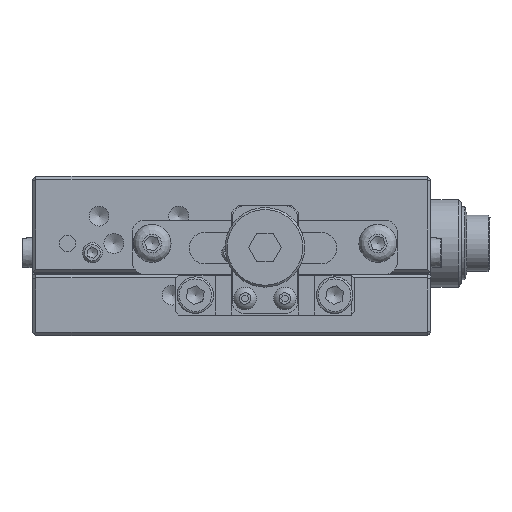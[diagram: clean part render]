
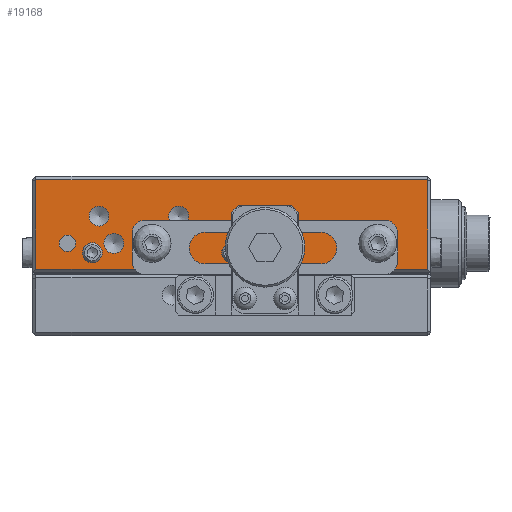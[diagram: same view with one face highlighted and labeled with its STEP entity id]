
A CAD part, left-side view. The second image highlights one B-rep face of the part: STEP entity #19168.
In plain terms, the highlighted planar face has unit normal (-1, 0, 0).
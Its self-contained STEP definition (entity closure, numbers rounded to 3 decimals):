
#18597=CARTESIAN_POINT('',(-30.,29.5,16.));
#18598=VERTEX_POINT('',#18597);
#18622=CARTESIAN_POINT('',(-30.,29.5,2.5));
#18623=VERTEX_POINT('',#18622);
#18630=CARTESIAN_POINT('',(-30.,29.5,2.5));
#18631=DIRECTION('',(0.,0.0,1.0));
#18632=VECTOR('',#18631,13.5);
#18633=LINE('',#18630,#18632);
#18634=EDGE_CURVE('',#18623,#18598,#18633,.T.);
#19028=CARTESIAN_POINT('',(-30.,-29.5,16.));
#19029=VERTEX_POINT('',#19028);
#19030=CARTESIAN_POINT('',(-30.,29.5,16.));
#19031=DIRECTION('',(0.0,-1.0,0.0));
#19032=VECTOR('',#19031,59.0);
#19033=LINE('',#19030,#19032);
#19034=EDGE_CURVE('',#18598,#19029,#19033,.T.);
#19046=CARTESIAN_POINT('',(-30.,0.0,16.));
#19047=DIRECTION('',(-1.0,0.0,0.));
#19048=DIRECTION('',(0.,0.0,1.0));
#19049=AXIS2_PLACEMENT_3D('',#19046,#19047,#19048);
#19050=PLANE('',#19049);
#19051=ORIENTED_EDGE('',*,*,#18634,.F.);
#19052=CARTESIAN_POINT('',(-30.,-29.5,2.5));
#19053=VERTEX_POINT('',#19052);
#19054=CARTESIAN_POINT('',(-30.,29.5,2.5));
#19055=DIRECTION('',(0.0,-1.0,0.0));
#19056=VECTOR('',#19055,59.0);
#19057=LINE('',#19054,#19056);
#19058=EDGE_CURVE('',#18623,#19053,#19057,.T.);
#19059=ORIENTED_EDGE('',*,*,#19058,.T.);
#19060=CARTESIAN_POINT('',(-30.,-29.5,16.));
#19061=DIRECTION('',(0.,0.0,-1.0));
#19062=VECTOR('',#19061,13.5);
#19063=LINE('',#19060,#19062);
#19064=EDGE_CURVE('',#19029,#19053,#19063,.T.);
#19065=ORIENTED_EDGE('',*,*,#19064,.F.);
#19066=ORIENTED_EDGE('',*,*,#19034,.F.);
#19067=EDGE_LOOP('',(#19051,#19059,#19065,#19066));
#19068=FACE_OUTER_BOUND('',#19067,.T.);
#19069=CARTESIAN_POINT('',(-30.,24.75,7.65));
#19070=VERTEX_POINT('',#19069);
#19071=CARTESIAN_POINT('',(-30.,24.75,6.4));
#19072=DIRECTION('',(1.0,0.0,0.));
#19073=DIRECTION('',(0.,0.0,1.0));
#19074=AXIS2_PLACEMENT_3D('',#19071,#19072,#19073);
#19075=CIRCLE('',#19074,1.25);
#19076=EDGE_CURVE('',#19070,#19070,#19075,.T.);
#19077=ORIENTED_EDGE('',*,*,#19076,.T.);
#19078=EDGE_LOOP('',(#19077));
#19079=FACE_BOUND('',#19078,.T.);
#19080=CARTESIAN_POINT('',(-30.,-22.,7.9));
#19081=VERTEX_POINT('',#19080);
#19082=CARTESIAN_POINT('',(-30.,-22.,6.4));
#19083=DIRECTION('',(1.0,0.0,0.));
#19084=DIRECTION('',(0.,0.0,1.0));
#19085=AXIS2_PLACEMENT_3D('',#19082,#19083,#19084);
#19086=CIRCLE('',#19085,1.5);
#19087=EDGE_CURVE('',#19081,#19081,#19086,.T.);
#19088=ORIENTED_EDGE('',*,*,#19087,.T.);
#19089=EDGE_LOOP('',(#19088));
#19090=FACE_BOUND('',#19089,.T.);
#19091=CARTESIAN_POINT('',(-30.,8.,12.));
#19092=VERTEX_POINT('',#19091);
#19093=CARTESIAN_POINT('',(-30.,8.,10.5));
#19094=DIRECTION('',(1.0,0.0,0.));
#19095=DIRECTION('',(0.,0.0,1.0));
#19096=AXIS2_PLACEMENT_3D('',#19093,#19094,#19095);
#19097=CIRCLE('',#19096,1.5);
#19098=EDGE_CURVE('',#19092,#19092,#19097,.T.);
#19099=ORIENTED_EDGE('',*,*,#19098,.T.);
#19100=EDGE_LOOP('',(#19099));
#19101=FACE_BOUND('',#19100,.T.);
#19102=CARTESIAN_POINT('',(-30.,12.,7.9));
#19103=VERTEX_POINT('',#19102);
#19104=CARTESIAN_POINT('',(-30.,12.,6.4));
#19105=DIRECTION('',(1.0,0.0,0.));
#19106=DIRECTION('',(0.,0.0,1.0));
#19107=AXIS2_PLACEMENT_3D('',#19104,#19105,#19106);
#19108=CIRCLE('',#19107,1.5);
#19109=EDGE_CURVE('',#19103,#19103,#19108,.T.);
#19110=ORIENTED_EDGE('',*,*,#19109,.T.);
#19111=EDGE_LOOP('',(#19110));
#19112=FACE_BOUND('',#19111,.T.);
#19113=CARTESIAN_POINT('',(-30.,20.,12.));
#19114=VERTEX_POINT('',#19113);
#19115=CARTESIAN_POINT('',(-30.,20.,10.5));
#19116=DIRECTION('',(1.0,0.0,0.));
#19117=DIRECTION('',(0.,0.0,1.0));
#19118=AXIS2_PLACEMENT_3D('',#19115,#19116,#19117);
#19119=CIRCLE('',#19118,1.5);
#19120=EDGE_CURVE('',#19114,#19114,#19119,.T.);
#19121=ORIENTED_EDGE('',*,*,#19120,.T.);
#19122=EDGE_LOOP('',(#19121));
#19123=FACE_BOUND('',#19122,.T.);
#19124=CARTESIAN_POINT('',(-30.,17.75,7.9));
#19125=VERTEX_POINT('',#19124);
#19126=CARTESIAN_POINT('',(-30.,17.75,6.4));
#19127=DIRECTION('',(1.0,0.0,0.));
#19128=DIRECTION('',(0.,0.0,1.0));
#19129=AXIS2_PLACEMENT_3D('',#19126,#19127,#19128);
#19130=CIRCLE('',#19129,1.5);
#19131=EDGE_CURVE('',#19125,#19125,#19130,.T.);
#19132=ORIENTED_EDGE('',*,*,#19131,.T.);
#19133=EDGE_LOOP('',(#19132));
#19134=FACE_BOUND('',#19133,.T.);
#19135=CARTESIAN_POINT('',(-30.,-18.,6.5));
#19136=VERTEX_POINT('',#19135);
#19137=CARTESIAN_POINT('',(-30.,-18.,5.));
#19138=DIRECTION('',(1.0,0.0,0.));
#19139=DIRECTION('',(0.,0.0,1.0));
#19140=AXIS2_PLACEMENT_3D('',#19137,#19138,#19139);
#19141=CIRCLE('',#19140,1.5);
#19142=EDGE_CURVE('',#19136,#19136,#19141,.T.);
#19143=ORIENTED_EDGE('',*,*,#19142,.T.);
#19144=EDGE_LOOP('',(#19143));
#19145=FACE_BOUND('',#19144,.T.);
#19146=CARTESIAN_POINT('',(-30.,0.0,6.5));
#19147=VERTEX_POINT('',#19146);
#19148=CARTESIAN_POINT('',(-30.,0.0,5.));
#19149=DIRECTION('',(1.0,0.0,0.));
#19150=DIRECTION('',(0.,0.0,1.0));
#19151=AXIS2_PLACEMENT_3D('',#19148,#19149,#19150);
#19152=CIRCLE('',#19151,1.5);
#19153=EDGE_CURVE('',#19147,#19147,#19152,.T.);
#19154=ORIENTED_EDGE('',*,*,#19153,.T.);
#19155=EDGE_LOOP('',(#19154));
#19156=FACE_BOUND('',#19155,.T.);
#19157=CARTESIAN_POINT('',(-30.,21.,6.5));
#19158=VERTEX_POINT('',#19157);
#19159=CARTESIAN_POINT('',(-30.,21.,5.));
#19160=DIRECTION('',(1.0,0.0,0.));
#19161=DIRECTION('',(0.,0.0,1.0));
#19162=AXIS2_PLACEMENT_3D('',#19159,#19160,#19161);
#19163=CIRCLE('',#19162,1.5);
#19164=EDGE_CURVE('',#19158,#19158,#19163,.T.);
#19165=ORIENTED_EDGE('',*,*,#19164,.T.);
#19166=EDGE_LOOP('',(#19165));
#19167=FACE_BOUND('',#19166,.T.);
#19168=ADVANCED_FACE('',(#19068,#19079,#19090,#19101,#19112,#19123,#19134,#19145,#19156,#19167),#19050,.T.);
